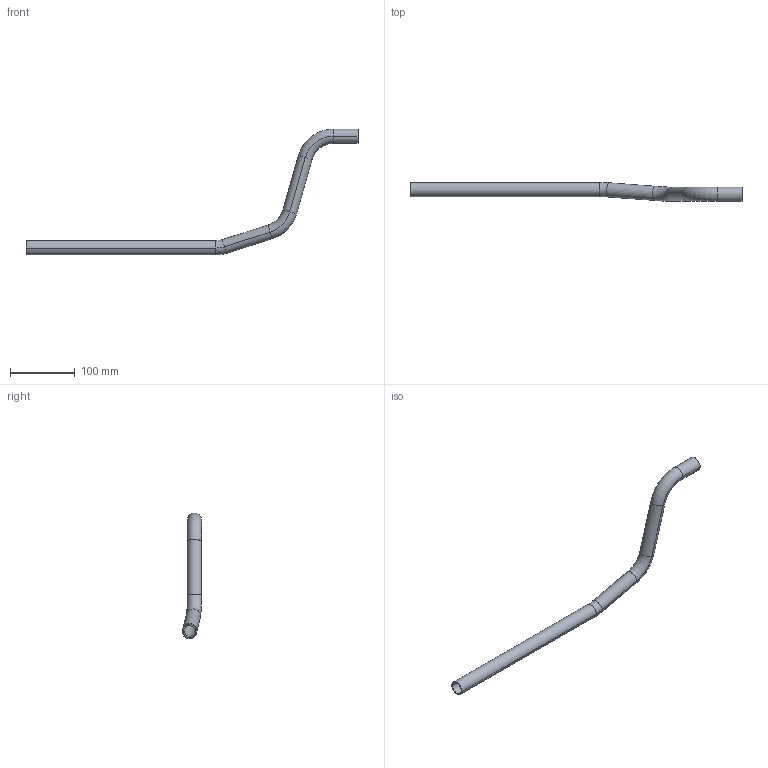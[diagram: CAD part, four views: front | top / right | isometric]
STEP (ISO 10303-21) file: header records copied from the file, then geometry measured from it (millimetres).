
FILE_DESCRIPTION(('CATIA V5 STEP Exchange','CAx-IF Rec.Pracs.--- Model Styling and Organization---1.2---2011-12-15'),'2;1');
FILE_NAME('c:\aplikace\smarteam\Temp\DO584745.step','2016-07-11T09:18:20+00:00',('none'),('none'),'CATIA Version 5 Release 21 SP 6 (IN-10)','CATIA V5 STEP AP214','none');
FILE_SCHEMA(('AUTOMOTIVE_DESIGN { 1 0 10303 214 1 1 1 1 }'));
Length unit declared in the file: millimetre
Products named in the file (1): DO584745, TRUBKA T3
Bounding box: 512.17 x 29.47 x 193.9 mm (x, y, z)
Volume: 58849.1 mm3; surface area: 78658.7 mm2
Topology: 1 solids, 1 shells, 30 faces, 60 edges, 32 vertices
Faces by surface type: cylinder 16, torus 12, plane 2
Entity records: 687 total; most frequent: ORIENTED_EDGE 120, CARTESIAN_POINT 109, DIRECTION 92, AXIS2_PLACEMENT_3D 61, EDGE_CURVE 60, CIRCLE 44, EDGE_LOOP 32, VERTEX_POINT 32
